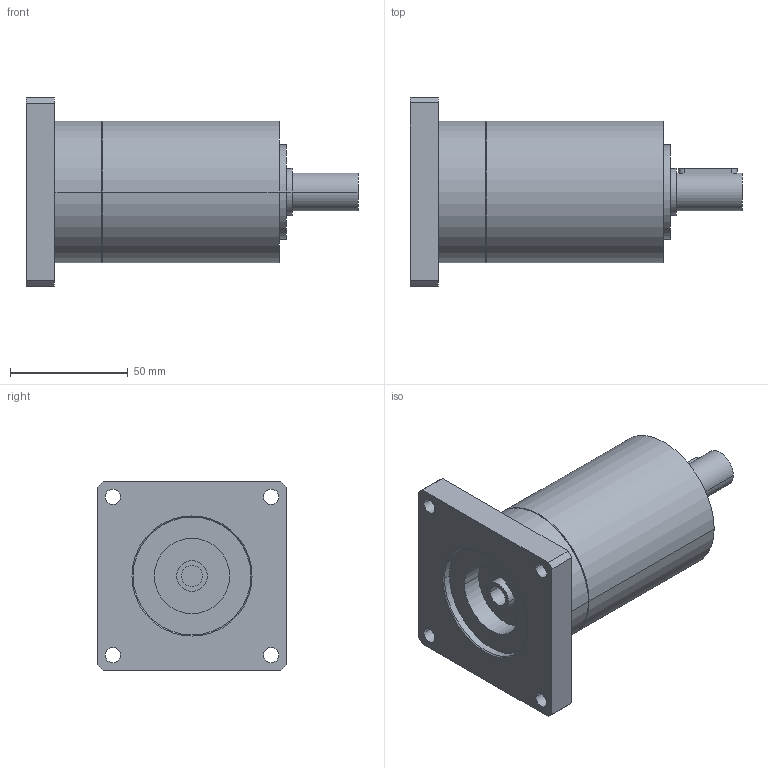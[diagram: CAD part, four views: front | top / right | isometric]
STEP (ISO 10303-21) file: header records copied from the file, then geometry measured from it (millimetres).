
FILE_DESCRIPTION(('CoCreate Modeling STEP Export'),'2;1');
FILE_NAME('GPR75_ig-9-12-16-20-24-30-36_16_B14_9_P27.stp','2014-08-25T16:07:38',(''),(''),'CoCreate Modeling STEP processor for AP214 (Solid Model)','CoCreate Modeling 16.00C 25-Feb-2009 (C) Parametric Technology GmbH','');
FILE_SCHEMA(('AUTOMOTIVE_DESIGN { 1 0 10303 214 1 1 1 1 }'));
Length unit declared in the file: millimetre
Products named in the file (2): GPR75_ig-9-12-16-20-24-30-36_16_B14_9_P27
Assembly tree (1 placements, depth 2):
  GPR75_ig-9-12-16-20-24-30-36_16_B14_9_P27
    GPR75_ig-9-12-16-20-24-30-36_16_B14_9_P27
Bounding box: 140.9 x 80 x 80 mm (x, y, z)
Volume: 339905.1 mm3; surface area: 40378.4 mm2
Topology: 1 solids, 1 shells, 72 faces, 187 edges, 129 vertices
Faces by surface type: cylinder 42, plane 22, cone 8
Entity records: 1954 total; most frequent: ORIENTED_EDGE 370, CARTESIAN_POINT 361, DIRECTION 268, EDGE_CURVE 185, VERTEX_POINT 129, AXIS2_PLACEMENT_3D 100, EDGE_LOOP 94, FACE_OUTER_BOUND 72
